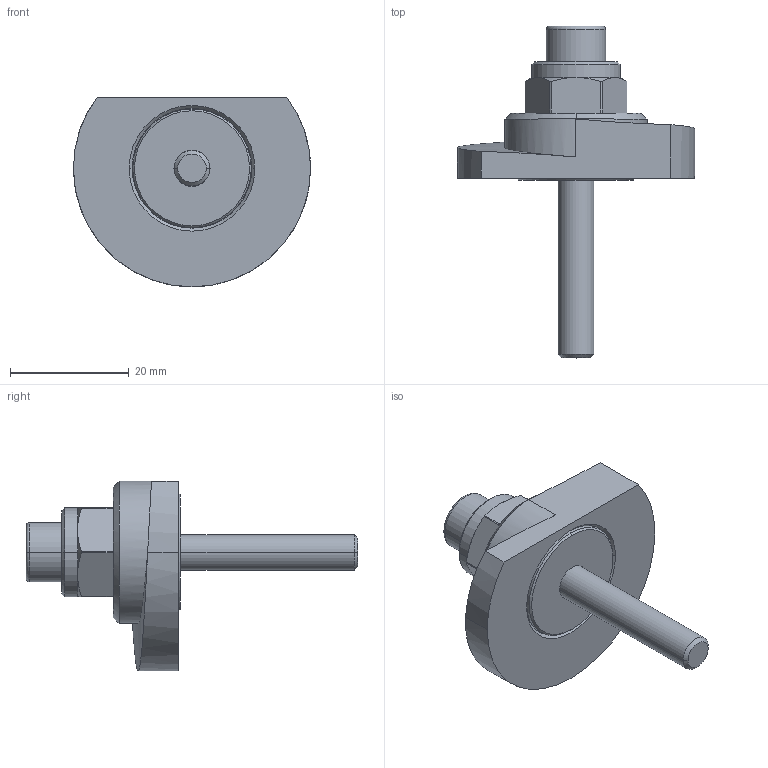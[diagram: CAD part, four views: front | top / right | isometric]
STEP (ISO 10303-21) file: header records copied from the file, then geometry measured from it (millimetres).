
FILE_DESCRIPTION (( 'STEP AP214' ), '1' );
FILE_NAME ('918.1-40-SKS-L-30.step', '2024-05-15T13:00:48', ( '' ), ( '' ), 'SwSTEP 2.0', 'SolidWorks 2022', '' );
FILE_SCHEMA (( 'AUTOMOTIVE_DESIGN' ));
Length unit declared in the file: millimetre
Products named in the file (1): 918.1-40-SKS-L-30
Bounding box: 40 x 56 x 32 mm (x, y, z)
Volume: 11798.3 mm3; surface area: 6773.9 mm2
Topology: 1 solids, 2 shells, 80 faces, 179 edges, 112 vertices
Faces by surface type: cylinder 27, plane 26, cone 22, bspline 3, torus 2
Entity records: 2599 total; most frequent: CARTESIAN_POINT 777, DIRECTION 390, ORIENTED_EDGE 358, EDGE_CURVE 179, AXIS2_PLACEMENT_3D 157, VERTEX_POINT 112, EDGE_LOOP 91, ADVANCED_FACE 80
